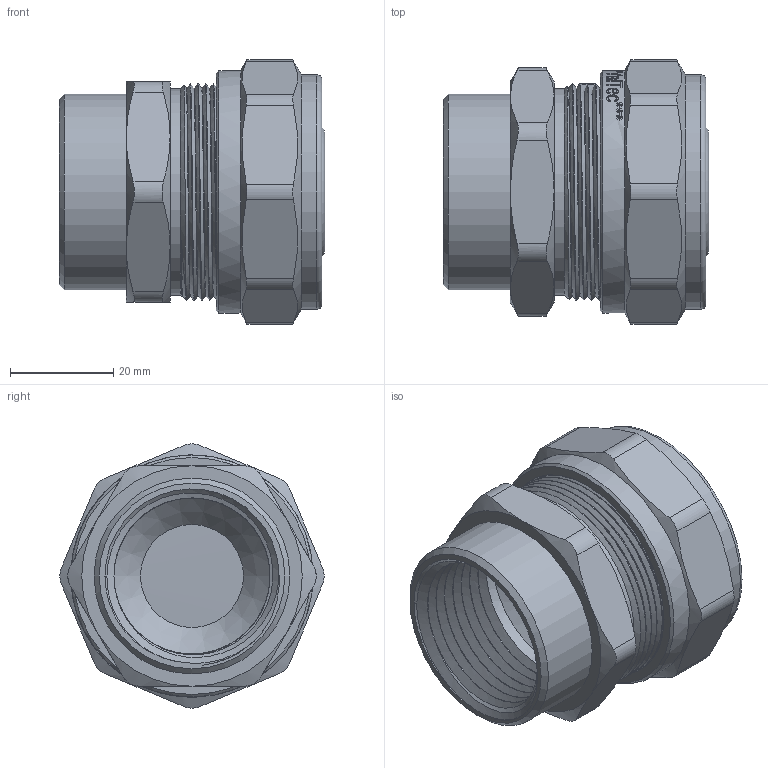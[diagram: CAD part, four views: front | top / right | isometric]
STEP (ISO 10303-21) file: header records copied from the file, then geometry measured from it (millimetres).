
FILE_DESCRIPTION(/* description */ (''),/* implementation_level */ '2;1');
FILE_NAME(/* name */ 'E:\Артём\00000\Работа удаленка\Обжимные фитинги\VTm.302.N.003206.stp',/* time_stamp */ '2020-06-08T16:08:09+03:00',/* author */ ('BeN_GaN'),/* organization */ (''),/* preprocessor_version */ 'ST-DEVELOPER v18',/* originating_system */ 'Autodesk Inventor 2020',/* authorisation */ '');
FILE_SCHEMA (('AUTOMOTIVE_DESIGN { 1 0 10303 214 3 1 1 }'));
Length unit declared in the file: millimetre
Products named in the file (1): VTm.302.N.003206
Bounding box: 51.5 x 51.3 x 51.3 mm (x, y, z)
Volume: 42690.6 mm3; surface area: 25693.4 mm2
Topology: 1 solids, 1 shells, 706 faces, 2007 edges, 1355 vertices
Faces by surface type: bspline 372, plane 174, cylinder 106, cone 30, torus 24
Full cylindrical faces by diameter (mm): 20 x1, 23.4 x2, 25.75 x5, 30.3 x7, 30.538 x4, 31.683 x5, 32.2 x1, 32.7 x1, 34.9 x6, 35.5 x1, 38 x1, 40 x1, 40.4 x4, 40.5 x1, 42 x5, 45.5 x1
Entity records: 32190 total; most frequent: CARTESIAN_POINT 16354, ORIENTED_EDGE 4014, DIRECTION 2076, EDGE_CURVE 2007, VERTEX_POINT 1355, B_SPLINE_CURVE_WITH_KNOTS 866, LINE 796, VECTOR 796
